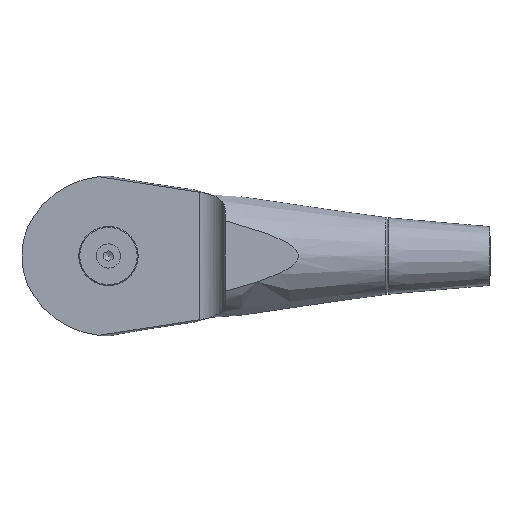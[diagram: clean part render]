
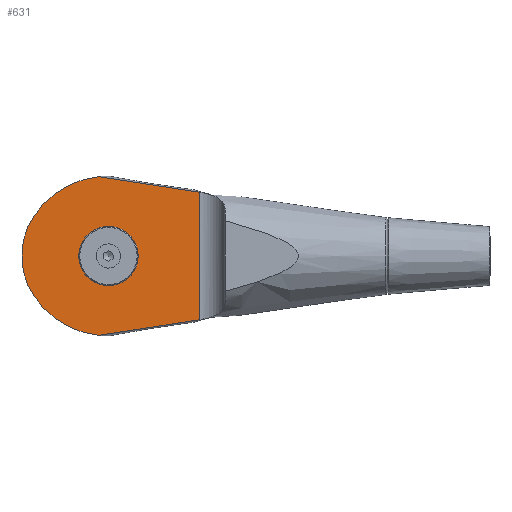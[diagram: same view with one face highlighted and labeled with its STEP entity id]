
A CAD part, left-side view. The second image highlights one B-rep face of the part: STEP entity #631.
In plain terms, the highlighted planar face has unit normal (-1, 0, 0).
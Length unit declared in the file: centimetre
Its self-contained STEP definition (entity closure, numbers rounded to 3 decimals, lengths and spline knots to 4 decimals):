
#20=LINE('',#1147,#40);
#40=VECTOR('',#820,13.966);
#65=(
BOUNDED_CURVE()
B_SPLINE_CURVE(2,(#976,#977,#978),.UNSPECIFIED.,.F.,.F.)
B_SPLINE_CURVE_WITH_KNOTS((3,3),(0.,12.0831),.UNSPECIFIED.)
CURVE()
GEOMETRIC_REPRESENTATION_ITEM()
RATIONAL_B_SPLINE_CURVE((1.,1.009,1.007))
REPRESENTATION_ITEM('')
);
#69=(
BOUNDED_CURVE()
B_SPLINE_CURVE(2,(#1094,#1095,#1096),.UNSPECIFIED.,.F.,.F.)
B_SPLINE_CURVE_WITH_KNOTS((3,3),(7.6459,19.7289),
 .UNSPECIFIED.)
CURVE()
GEOMETRIC_REPRESENTATION_ITEM()
RATIONAL_B_SPLINE_CURVE((1.007,1.009,1.))
REPRESENTATION_ITEM('')
);
#94=PLANE('',#699);
#119=FACE_BOUND('',#203,.T.);
#149=FACE_OUTER_BOUND('',#202,.T.);
#202=EDGE_LOOP('',(#466,#467,#468,#469,#470,#471));
#203=EDGE_LOOP('',(#472));
#258=CIRCLE('',#688,2.95);
#260=CIRCLE('',#691,9.8205);
#262=CIRCLE('',#694,9.8205);
#264=CIRCLE('',#697,7.9);
#291=VERTEX_POINT('',#952);
#292=VERTEX_POINT('',#975);
#303=VERTEX_POINT('',#1080);
#304=VERTEX_POINT('',#1093);
#306=VERTEX_POINT('',#1127);
#308=VERTEX_POINT('',#1132);
#310=VERTEX_POINT('',#1138);
#349=EDGE_CURVE('',#291,#292,#65,.T.);
#361=EDGE_CURVE('',#303,#304,#69,.T.);
#366=EDGE_CURVE('',#306,#306,#258,.T.);
#368=EDGE_CURVE('',#303,#308,#260,.T.);
#371=EDGE_CURVE('',#310,#292,#262,.T.);
#374=EDGE_CURVE('',#308,#310,#264,.T.);
#376=EDGE_CURVE('',#291,#304,#20,.T.);
#466=ORIENTED_EDGE('',*,*,#368,.T.);
#467=ORIENTED_EDGE('',*,*,#374,.T.);
#468=ORIENTED_EDGE('',*,*,#371,.T.);
#469=ORIENTED_EDGE('',*,*,#349,.F.);
#470=ORIENTED_EDGE('',*,*,#376,.T.);
#471=ORIENTED_EDGE('',*,*,#361,.F.);
#472=ORIENTED_EDGE('',*,*,#366,.T.);
#631=ADVANCED_FACE('',(#149,#119),#94,.F.);
#688=AXIS2_PLACEMENT_3D('',#1128,#794,#795);
#691=AXIS2_PLACEMENT_3D('',#1133,#800,#801);
#694=AXIS2_PLACEMENT_3D('',#1139,#807,#808);
#697=AXIS2_PLACEMENT_3D('',#1144,#814,#815);
#699=AXIS2_PLACEMENT_3D('',#1146,#818,#819);
#794=DIRECTION('center_axis',(1.,0.,0.));
#795=DIRECTION('ref_axis',(0.,-1.,0.));
#800=DIRECTION('center_axis',(-1.,0.,0.));
#801=DIRECTION('ref_axis',(0.,0.,-1.));
#807=DIRECTION('center_axis',(-1.,0.,0.));
#808=DIRECTION('ref_axis',(0.,-0.833,0.553));
#814=DIRECTION('center_axis',(-1.,0.,0.));
#815=DIRECTION('ref_axis',(0.,-0.833,-0.553));
#818=DIRECTION('center_axis',(1.,0.,0.));
#819=DIRECTION('ref_axis',(0.,-1.,0.));
#820=DIRECTION('',(0.,0.,1.));
#952=CARTESIAN_POINT('',(-2.,-10.,-6.983));
#975=CARTESIAN_POINT('',(-2.,1.1032,-8.6961));
#976=CARTESIAN_POINT('Ctrl Pts',(-2.,-10.,-6.983));
#977=CARTESIAN_POINT('Ctrl Pts',(-2.,-5.055,-7.7517));
#978=CARTESIAN_POINT('Ctrl Pts',(-2.,1.1032,-8.6961));
#1080=CARTESIAN_POINT('',(-2.,1.1032,8.6961));
#1093=CARTESIAN_POINT('',(-2.,-10.,6.983));
#1094=CARTESIAN_POINT('Ctrl Pts',(-2.,1.1032,8.6961));
#1095=CARTESIAN_POINT('Ctrl Pts',(-2.,-5.055,7.7517));
#1096=CARTESIAN_POINT('Ctrl Pts',(-2.,-10.,6.983));
#1127=CARTESIAN_POINT('',(-2.,2.95,0.));
#1128=CARTESIAN_POINT('Origin',(-2.,0.,0.));
#1132=CARTESIAN_POINT('',(-2.,8.1815,4.3696));
#1133=CARTESIAN_POINT('Origin',(-2.,0.,-1.0623));
#1138=CARTESIAN_POINT('',(-2.,8.1815,-4.3696));
#1139=CARTESIAN_POINT('Origin',(-2.,0.,1.0623));
#1144=CARTESIAN_POINT('Origin',(-2.,1.6,0.));
#1146=CARTESIAN_POINT('Origin',(-2.,9.5,0.));
#1147=CARTESIAN_POINT('',(-2.,-10.,0.));
